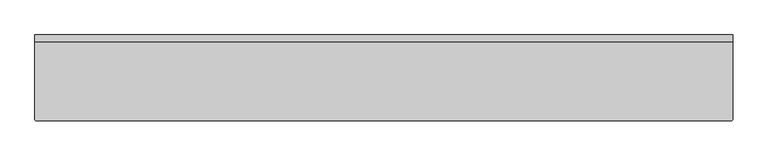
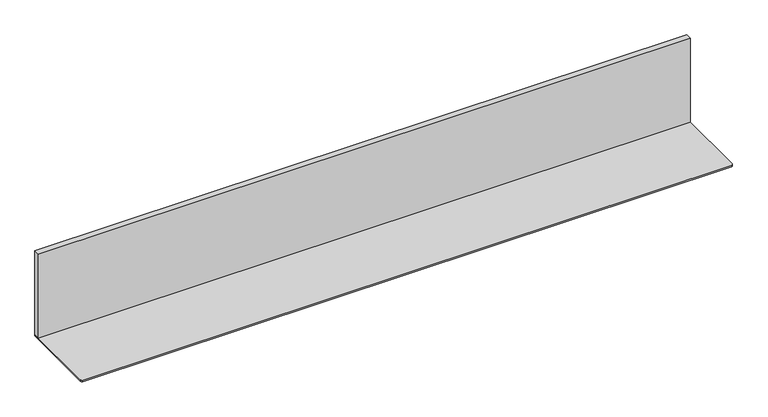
"""IFC4 building model written with IfcOpenShell, lengths in millimetres: furniture geometry, Geiger_GeigerOneCasegoods_OverheadStorageMetalShelf : Horizontal Veneer Back 108Wx 13.5Dx 14.875H."""

from ifc_helpers import new_model, si_unit, point, frame, frame_2d, origin, origin_with_axes, place, context, project, spatial, polyline, circle_curve, trimmed, segment, composite_curve, outline, extrude, source, transform, mapped, element, save


def furniture_d7a22792(model_context):
    return source(origin(), model_context, "Body", "SweptSolid", [
        extrude(outline(composite_curve([segment(polyline([(2743.2, 0.0), (2743.2, -331.65)]), True, "CONTINUOUS"), segment(trimmed(circle_curve(frame_2d((2736.85, -331.65)), 6.35), [point((2743.2, -331.65))], [point((2736.85, -338.0))], False, "CARTESIAN"), True, "CONTINUOUS"), segment(polyline([(2736.85, -338.0), (6.35, -338.0)]), True, "CONTINUOUS"), segment(trimmed(circle_curve(frame_2d((6.35, -331.65)), 6.35), [point((6.35, -338.0))], [point((0.0, -331.65))], False, "CARTESIAN"), True, "CONTINUOUS"), segment(polyline([(0.0, -331.65), (0.0, 0.0), (2743.2, 0.0)]), True, "CONTINUOUS")], self_intersect=False)), origin_with_axes(), (0.0, 0.0, 1.0), 6.0),
        extrude(outline(polyline([(2743.2, 0.0), (2743.2, -26.0), (0.0, -26.0), (0.0, 0.0), (2743.2, 0.0)])), frame((0.0, 0.0, 6.0), z_axis=(0.0, 0.0, 1.0), x_axis=(1.0, 0.0, 0.0)), (0.0, 0.0, 1.0), 373.0),
    ])


if __name__ == "__main__":
    model = new_model("IFC4")
    model_context = context("Model", 3, world=origin())
    ifc_project = project(units=[si_unit("LENGTHUNIT", "METRE", prefix="MILLI")], contexts=[model_context])
    site = spatial("IfcSite", under=ifc_project)
    building = spatial("IfcBuilding", under=site)
    placement = place(None, origin())
    furniture_shape = furniture_d7a22792(model_context)
    element("IfcFurniture", 1, ObjectType="Geiger_GeigerOneCasegoods_OverheadStorageMetalShelf : Horizontal Veneer Back 108Wx 13.5Dx 14.875H", at=placement, inside=building, context=model_context, shape_type="MappedRepresentation", body=[
        mapped(furniture_shape, transform((0.0, 0.0, 0.0), x_axis=(1.0, 0.0, 0.0), y_axis=(0.0, 1.0, 0.0), z_axis=(0.0, 0.0, 1.0))),
    ])
    save(model, "model.ifc")
